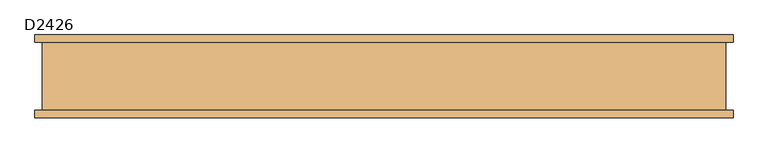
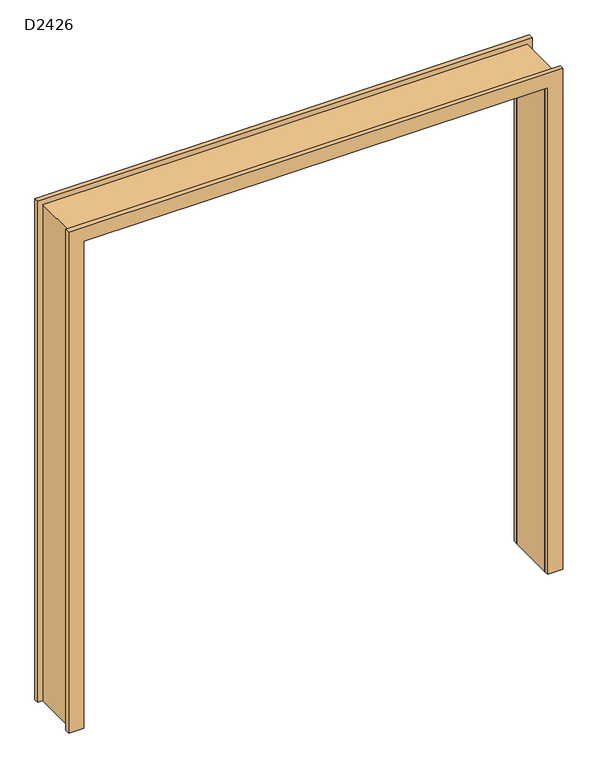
"""IFC4 building model written with IfcOpenShell, lengths in millimetres: door geometry, 门洞 : D2426."""

from ifc_helpers import new_model, si_unit, frame, origin, place, context, project, spatial, polyline, outline, extrude, source, transform, mapped, element, save


def d2426_2cd21a30(model_context):
    return source(origin(), model_context, "Body", "SweptSolid", [
        extrude(outline(polyline([(2600.0, -1200.0), (0.0, -1200.0), (0.0, -1150.0), (2550.0, -1150.0), (2550.0, 1150.0), (0.0, 1150.0), (0.0, 1200.0), (2600.0, 1200.0), (2600.0, -1200.0)])), frame((0.0, -120.0, 0.0), z_axis=(0.0, 1.0, 0.0), x_axis=(0.0, 0.0, 1.0)), (0.0, 0.0, 1.0), 240.0),
        extrude(outline(polyline([(2625.0, -1225.0), (0.0, -1225.0), (0.0, -1150.0), (2550.0, -1150.0), (2550.0, 1150.0), (0.0, 1150.0), (0.0, 1225.0), (2625.0, 1225.0), (2625.0, -1225.0)])), frame((0.0, -145.0, 0.0), z_axis=(0.0, 1.0, 0.0), x_axis=(0.0, 0.0, 1.0)), (0.0, 0.0, 1.0), 25.0),
        extrude(outline(polyline([(2625.0, -1225.0), (0.0, -1225.0), (0.0, -1150.0), (2550.0, -1150.0), (2550.0, 1150.0), (0.0, 1150.0), (0.0, 1225.0), (2625.0, 1225.0), (2625.0, -1225.0)])), frame((0.0, 120.0, 0.0), z_axis=(0.0, 1.0, 0.0), x_axis=(0.0, 0.0, 1.0)), (0.0, 0.0, 1.0), 25.0),
    ])


if __name__ == "__main__":
    model = new_model("IFC4")
    model_context = context("Model", 3, world=origin())
    ifc_project = project(units=[si_unit("LENGTHUNIT", "METRE", prefix="MILLI")], contexts=[model_context])
    site = spatial("IfcSite", under=ifc_project)
    building = spatial("IfcBuilding", under=site)
    placement = place(None, origin())
    d2426_shape = d2426_2cd21a30(model_context)
    element("IfcDoor", 1, ObjectType="门洞 : D2426", at=placement, inside=building, context=model_context, shape_type="MappedRepresentation", body=[
        mapped(d2426_shape, transform((0.0, 0.0, 0.0), x_axis=(1.0, 0.0, 0.0), y_axis=(0.0, 1.0, 0.0), z_axis=(0.0, 0.0, 1.0))),
    ])
    save(model, "model.ifc")
